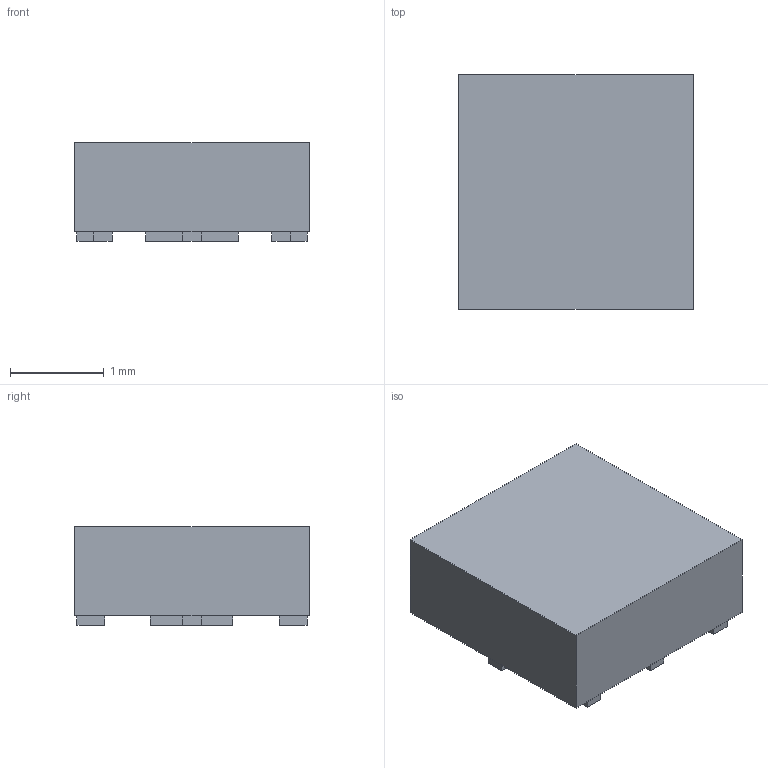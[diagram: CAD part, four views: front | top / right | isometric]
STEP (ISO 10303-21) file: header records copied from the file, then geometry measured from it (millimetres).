
FILE_DESCRIPTION(('FreeCAD Model'),'2;1');
FILE_NAME('/var/www/3D/0T/17461325.1.4.stp','2023-02-24T06:24:09',( 'Author'),(''),'Open CASCADE STEP processor 6.9','FreeCAD','Unknown' );
FILE_SCHEMA(('AUTOMOTIVE_DESIGN { 1 0 10303 214 1 1 1 1 }'));
Length unit declared in the file: millimetre
Products named in the file (3): ASSEMBLY; Body; Pins
Assembly tree (2 placements, depth 2):
  ASSEMBLY
    Body
    Pins
Bounding box: 2.5 x 2.5 x 1.05 mm (x, y, z)
Volume: 6.1 mm3; surface area: 25.8 mm2
Topology: 10 solids, 10 shells, 60 faces, 120 edges, 80 vertices
Faces by surface type: plane 60
Entity records: 3206 total; most frequent: CARTESIAN_POINT 503, DIRECTION 486, LINE 360, VECTOR 360, ORIENTED_EDGE 240, PCURVE 240, DEFINITIONAL_REPRESENTATION 240, EDGE_CURVE 120
